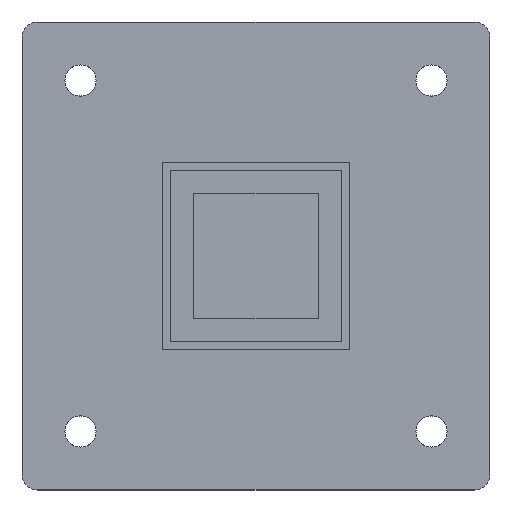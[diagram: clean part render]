
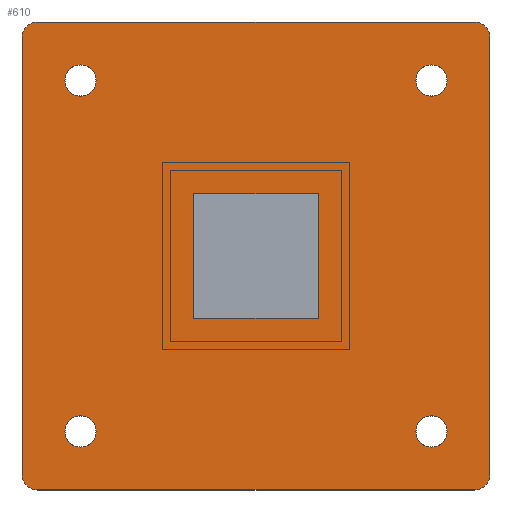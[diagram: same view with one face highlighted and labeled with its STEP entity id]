
A CAD part, top view. The second image highlights one B-rep face of the part: STEP entity #610.
In plain terms, the highlighted planar face has unit normal (0, 0, 1).
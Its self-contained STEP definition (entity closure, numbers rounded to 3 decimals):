
#252 = VERTEX_POINT( '', #717 );
#260 = VERTEX_POINT( '', #726 );
#262 = EDGE_CURVE( '', #290, #432, #728, .T. );
#274 = VERTEX_POINT( '', #740 );
#280 = EDGE_CURVE( '', #308, #290, #747, .T. );
#290 = VERTEX_POINT( '', #761 );
#302 = EDGE_CURVE( '', #316, #308, #774, .T. );
#308 = VERTEX_POINT( '', #781 );
#312 = EDGE_CURVE( '', #334, #316, #785, .T. );
#316 = VERTEX_POINT( '', #789 );
#326 = EDGE_CURVE( '', #356, #334, #800, .T. );
#334 = VERTEX_POINT( '', #810 );
#338 = VERTEX_POINT( '', #814 );
#346 = EDGE_CURVE( '', #374, #356, #822, .T. );
#352 = VERTEX_POINT( '', #829 );
#356 = VERTEX_POINT( '', #833 );
#362 = EDGE_CURVE( '', #418, #374, #839, .T. );
#364 = VERTEX_POINT( '', #841 );
#374 = VERTEX_POINT( '', #853 );
#400 = VERTEX_POINT( '', #883 );
#402 = EDGE_CURVE( '', #432, #418, #885, .T. );
#408 = EDGE_CURVE( '', #274, #474, #894, .T. );
#418 = VERTEX_POINT( '', #904 );
#428 = EDGE_CURVE( '', #338, #400, #915, .T. );
#432 = VERTEX_POINT( '', #919 );
#440 = EDGE_CURVE( '', #400, #338, #933, .T. );
#452 = EDGE_CURVE( '', #260, #252, #946, .T. );
#464 = EDGE_CURVE( '', #474, #274, #961, .T. );
#466 = EDGE_CURVE( '', #352, #364, #963, .T. );
#472 = EDGE_CURVE( '', #502, #580, #969, .T. );
#474 = VERTEX_POINT( '', #971 );
#480 = EDGE_CURVE( '', #252, #260, #978, .T. );
#498 = EDGE_CURVE( '', #524, #502, #997, .T. );
#502 = VERTEX_POINT( '', #1001 );
#518 = EDGE_CURVE( '', #570, #524, #1019, .T. );
#524 = VERTEX_POINT( '', #1025 );
#570 = VERTEX_POINT( '', #1074 );
#572 = EDGE_CURVE( '', #580, #570, #1076, .T. );
#580 = VERTEX_POINT( '', #1085 );
#610 = ADVANCED_FACE( '', ( #1116, #1117, #1118, #1119, #1120, #1121 ), #1122, .T. );
#694 = EDGE_CURVE( '', #364, #352, #1214, .T. );
#717 = CARTESIAN_POINT( '', ( 20.5, 22.5, 0. ) );
#726 = CARTESIAN_POINT( '', ( 24.5, 22.5, 0. ) );
#728 = CIRCLE( '', #1240, 2. );
#740 = CARTESIAN_POINT( '', ( -24.5, -22.5, 0. ) );
#747 = LINE( '', #1265, #1266 );
#761 = CARTESIAN_POINT( '', ( -28., -30., 0. ) );
#774 = CIRCLE( '', #1300, 2. );
#781 = CARTESIAN_POINT( '', ( 28., -30., 0. ) );
#785 = LINE( '', #1316, #1317 );
#789 = CARTESIAN_POINT( '', ( 30., -28., 0. ) );
#800 = CIRCLE( '', #1341, 2. );
#810 = CARTESIAN_POINT( '', ( 30., 28., 0. ) );
#814 = CARTESIAN_POINT( '', ( 20.5, -22.5, 0. ) );
#822 = LINE( '', #1368, #1369 );
#829 = CARTESIAN_POINT( '', ( -20.5, 22.5, 0. ) );
#833 = CARTESIAN_POINT( '', ( 28., 30., 0. ) );
#839 = CIRCLE( '', #1393, 2. );
#841 = CARTESIAN_POINT( '', ( -24.5, 22.5, 0. ) );
#853 = CARTESIAN_POINT( '', ( -28., 30., 0. ) );
#883 = CARTESIAN_POINT( '', ( 24.5, -22.5, 0. ) );
#885 = LINE( '', #1455, #1456 );
#894 = CIRCLE( '', #1466, 2. );
#904 = CARTESIAN_POINT( '', ( -30., 28., 0. ) );
#915 = CIRCLE( '', #1496, 2. );
#919 = CARTESIAN_POINT( '', ( -30., -28., 0. ) );
#933 = CIRCLE( '', #1519, 2. );
#946 = CIRCLE( '', #1537, 2. );
#961 = CIRCLE( '', #1557, 2. );
#963 = CIRCLE( '', #1560, 2. );
#969 = LINE( '', #1569, #1570 );
#971 = CARTESIAN_POINT( '', ( -20.5, -22.5, 0. ) );
#978 = CIRCLE( '', #1582, 2. );
#997 = LINE( '', #1612, #1613 );
#1001 = CARTESIAN_POINT( '', ( 8., 8., 0. ) );
#1019 = LINE( '', #1642, #1643 );
#1025 = CARTESIAN_POINT( '', ( -8., 8., 0. ) );
#1074 = CARTESIAN_POINT( '', ( -8., -8., 0. ) );
#1076 = LINE( '', #1723, #1724 );
#1085 = CARTESIAN_POINT( '', ( 8., -8., 0. ) );
#1116 = FACE_BOUND( '', #1783, .T. );
#1117 = FACE_OUTER_BOUND( '', #1784, .T. );
#1118 = FACE_BOUND( '', #1785, .T. );
#1119 = FACE_BOUND( '', #1786, .T. );
#1120 = FACE_BOUND( '', #1787, .T. );
#1121 = FACE_BOUND( '', #1788, .T. );
#1122 = PLANE( '', #1789 );
#1214 = CIRCLE( '', #1915, 2. );
#1240 = AXIS2_PLACEMENT_3D( '', #1936, #1937, #1938 );
#1265 = CARTESIAN_POINT( '', ( -28., -30., 0. ) );
#1266 = VECTOR( '', #1951, 1. );
#1300 = AXIS2_PLACEMENT_3D( '', #1991, #1992, #1993 );
#1316 = CARTESIAN_POINT( '', ( 30., -28., 0. ) );
#1317 = VECTOR( '', #2004, 1. );
#1341 = AXIS2_PLACEMENT_3D( '', #2017, #2018, #2019 );
#1368 = CARTESIAN_POINT( '', ( 28., 30., 0. ) );
#1369 = VECTOR( '', #2038, 1. );
#1393 = AXIS2_PLACEMENT_3D( '', #2050, #2051, #2052 );
#1455 = CARTESIAN_POINT( '', ( -30., 28., 0. ) );
#1456 = VECTOR( '', #2107, 1. );
#1466 = AXIS2_PLACEMENT_3D( '', #2128, #2129, #2130 );
#1496 = AXIS2_PLACEMENT_3D( '', #2143, #2144, #2145 );
#1519 = AXIS2_PLACEMENT_3D( '', #2172, #2173, #2174 );
#1537 = AXIS2_PLACEMENT_3D( '', #2185, #2186, #2187 );
#1557 = AXIS2_PLACEMENT_3D( '', #2214, #2215, #2216 );
#1560 = AXIS2_PLACEMENT_3D( '', #2217, #2218, #2219 );
#1569 = CARTESIAN_POINT( '', ( 8., 4., 0. ) );
#1570 = VECTOR( '', #2221, 1. );
#1582 = AXIS2_PLACEMENT_3D( '', #2231, #2232, #2233 );
#1612 = CARTESIAN_POINT( '', ( -4., 8., 0. ) );
#1613 = VECTOR( '', #2252, 1. );
#1642 = CARTESIAN_POINT( '', ( -8., -4., 0. ) );
#1643 = VECTOR( '', #2272, 1. );
#1723 = CARTESIAN_POINT( '', ( 4., -8., 0. ) );
#1724 = VECTOR( '', #2313, 1. );
#1783 = EDGE_LOOP( '', ( #2348, #2349, #2350, #2351 ) );
#1784 = EDGE_LOOP( '', ( #2352, #2353, #2354, #2355, #2356, #2357, #2358, #2359 ) );
#1785 = EDGE_LOOP( '', ( #2360, #2361 ) );
#1786 = EDGE_LOOP( '', ( #2362, #2363 ) );
#1787 = EDGE_LOOP( '', ( #2364, #2365 ) );
#1788 = EDGE_LOOP( '', ( #2366, #2367 ) );
#1789 = AXIS2_PLACEMENT_3D( '', #2368, #2369, #2370 );
#1915 = AXIS2_PLACEMENT_3D( '', #2459, #2460, #2461 );
#1936 = CARTESIAN_POINT( '', ( -28., -28., 0. ) );
#1937 = DIRECTION( '', ( 0., 0., -1. ) );
#1938 = DIRECTION( '', ( -1., 0., 0. ) );
#1951 = DIRECTION( '', ( -1., 0., 0. ) );
#1991 = CARTESIAN_POINT( '', ( 28., -28., 0. ) );
#1992 = DIRECTION( '', ( 0., 0., -1. ) );
#1993 = DIRECTION( '', ( 0., -1., 0. ) );
#2004 = DIRECTION( '', ( 0., -1., 0. ) );
#2017 = CARTESIAN_POINT( '', ( 28., 28., 0. ) );
#2018 = DIRECTION( '', ( 0., 0., -1. ) );
#2019 = DIRECTION( '', ( 1., 0., 0. ) );
#2038 = DIRECTION( '', ( 1., 0., 0. ) );
#2050 = CARTESIAN_POINT( '', ( -28., 28., 0. ) );
#2051 = DIRECTION( '', ( 0., 0., -1. ) );
#2052 = DIRECTION( '', ( 0., 1., 0. ) );
#2107 = DIRECTION( '', ( 0., 1., 0. ) );
#2128 = CARTESIAN_POINT( '', ( -22.5, -22.5, 0. ) );
#2129 = DIRECTION( '', ( 0., 0., 1. ) );
#2130 = DIRECTION( '', ( 1., 0., 0. ) );
#2143 = CARTESIAN_POINT( '', ( 22.5, -22.5, 0. ) );
#2144 = DIRECTION( '', ( 0., 0., 1. ) );
#2145 = DIRECTION( '', ( 1., 0., 0. ) );
#2172 = CARTESIAN_POINT( '', ( 22.5, -22.5, 0. ) );
#2173 = DIRECTION( '', ( 0., 0., 1. ) );
#2174 = DIRECTION( '', ( 1., 0., 0. ) );
#2185 = CARTESIAN_POINT( '', ( 22.5, 22.5, 0. ) );
#2186 = DIRECTION( '', ( 0., 0., 1. ) );
#2187 = DIRECTION( '', ( 1., 0., 0. ) );
#2214 = CARTESIAN_POINT( '', ( -22.5, -22.5, 0. ) );
#2215 = DIRECTION( '', ( 0., 0., 1. ) );
#2216 = DIRECTION( '', ( 1., 0., 0. ) );
#2217 = CARTESIAN_POINT( '', ( -22.5, 22.5, 0. ) );
#2218 = DIRECTION( '', ( 0., 0., 1. ) );
#2219 = DIRECTION( '', ( 1., 0., 0. ) );
#2221 = DIRECTION( '', ( 0., -1., 0. ) );
#2231 = CARTESIAN_POINT( '', ( 22.5, 22.5, 0. ) );
#2232 = DIRECTION( '', ( 0., 0., 1. ) );
#2233 = DIRECTION( '', ( 1., 0., 0. ) );
#2252 = DIRECTION( '', ( 1., 0., 0. ) );
#2272 = DIRECTION( '', ( 0., 1., 0. ) );
#2313 = DIRECTION( '', ( -1., 0., 0. ) );
#2348 = ORIENTED_EDGE( '', *, *, #498, .T. );
#2349 = ORIENTED_EDGE( '', *, *, #472, .T. );
#2350 = ORIENTED_EDGE( '', *, *, #572, .T. );
#2351 = ORIENTED_EDGE( '', *, *, #518, .T. );
#2352 = ORIENTED_EDGE( '', *, *, #402, .F. );
#2353 = ORIENTED_EDGE( '', *, *, #262, .F. );
#2354 = ORIENTED_EDGE( '', *, *, #280, .F. );
#2355 = ORIENTED_EDGE( '', *, *, #302, .F. );
#2356 = ORIENTED_EDGE( '', *, *, #312, .F. );
#2357 = ORIENTED_EDGE( '', *, *, #326, .F. );
#2358 = ORIENTED_EDGE( '', *, *, #346, .F. );
#2359 = ORIENTED_EDGE( '', *, *, #362, .F. );
#2360 = ORIENTED_EDGE( '', *, *, #440, .F. );
#2361 = ORIENTED_EDGE( '', *, *, #428, .F. );
#2362 = ORIENTED_EDGE( '', *, *, #452, .F. );
#2363 = ORIENTED_EDGE( '', *, *, #480, .F. );
#2364 = ORIENTED_EDGE( '', *, *, #464, .F. );
#2365 = ORIENTED_EDGE( '', *, *, #408, .F. );
#2366 = ORIENTED_EDGE( '', *, *, #466, .F. );
#2367 = ORIENTED_EDGE( '', *, *, #694, .F. );
#2368 = CARTESIAN_POINT( '', ( 0., 0., 0. ) );
#2369 = DIRECTION( '', ( 0., 0., 1. ) );
#2370 = DIRECTION( '', ( 1., 0., 0. ) );
#2459 = CARTESIAN_POINT( '', ( -22.5, 22.5, 0. ) );
#2460 = DIRECTION( '', ( 0., 0., 1. ) );
#2461 = DIRECTION( '', ( 1., 0., 0. ) );
